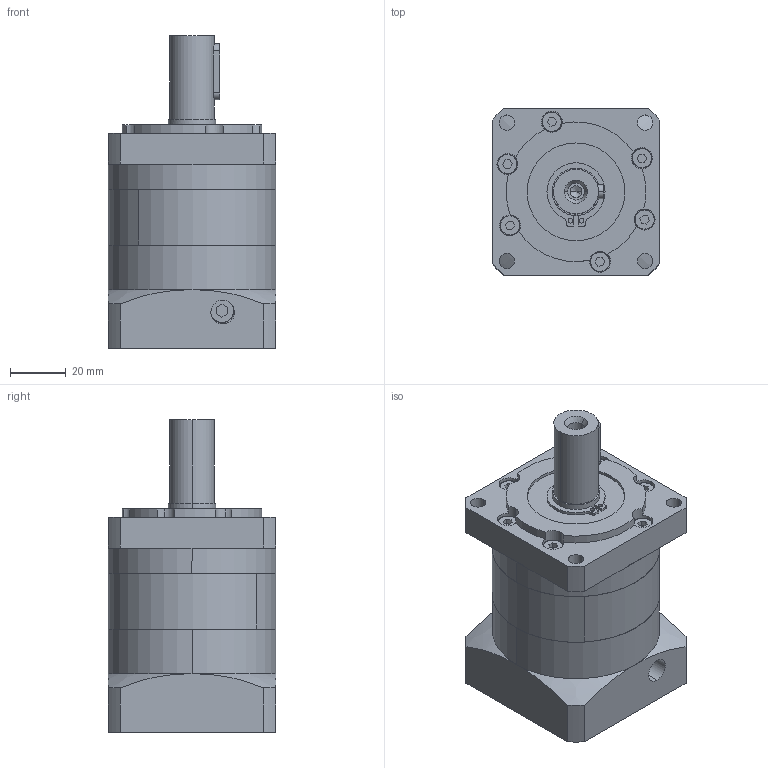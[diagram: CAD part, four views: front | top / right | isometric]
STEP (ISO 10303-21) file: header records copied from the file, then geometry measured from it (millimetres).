
FILE_DESCRIPTION (( 'STEP AP203' ), '1' );
FILE_NAME ('PLF060-L1-14-50-70³öÖá16.STEP', '2024-04-22T07:17:45', ( 'Windows User' ), ( 'P R C' ), 'SwSTEP 2.0', 'SolidWorks 2016', '' );
FILE_SCHEMA (( 'CONFIG_CONTROL_DESIGN' ));
Length unit declared in the file: millimetre
Products named in the file (8): 囀鞠褒蹟佪 M5℅16; PLF060-L1-14-50-70堤粣16; B-PLF60 κｳﾝﾈｦ_ﾒｻｼｶﾄﾚｳﾝﾈｦ; B-PLF60 奻屳唳-16_D1-70 D2-5.5 D3-14 D4-17 D5-50 L1-30 L2-35 L3-3 A1-60 S1-3 S2-20 S3-5 S4-18 B-5 H-16 C-M5 梓袧; B-PLF60 狟屳唳_D6-60 D7-14 梓袧; B-PLF60-連接板标准-尾座款_1; GB／T276-94深沟球轴承61905-2RZ; 邧埴瑩 5x5x20
Assembly tree (7 placements, depth 2):
  PLF060-L1-14-50-70堤粣16
    B-PLF60 κｳﾝﾈｦ_ﾒｻｼｶﾄﾚｳﾝﾈｦ
    B-PLF60 奻屳唳-16_D1-70 D2-5.5 D3-14 D4-17 D5-50 L1-30 L2-35 L3-3 A1-60 S1-3 S2-20 S3-5 S4-18 B-5 H-16 C-M5 梓袧
    B-PLF60 狟屳唳_D6-60 D7-14 梓袧
    B-PLF60-連接板标准-尾座款_1
    GB／T276-94深沟球轴承61905-2RZ
    邧埴瑩 5x5x20
    囀鞠褒蹟佪 M5℅16
Bounding box: 60 x 60 x 112 mm (x, y, z)
Volume: 210606 mm3; surface area: 64480.8 mm2
Topology: 21 solids, 21 shells, 1015 faces, 2807 edges, 1843 vertices
Faces by surface type: plane 525, bspline 291, cylinder 173, cone 26
Entity records: 43395 total; most frequent: CARTESIAN_POINT 18346, ORIENTED_EDGE 5578, DIRECTION 4206, EDGE_CURVE 2789, VERTEX_POINT 1843, AXIS2_PLACEMENT_3D 1407, LINE 1392, VECTOR 1392
